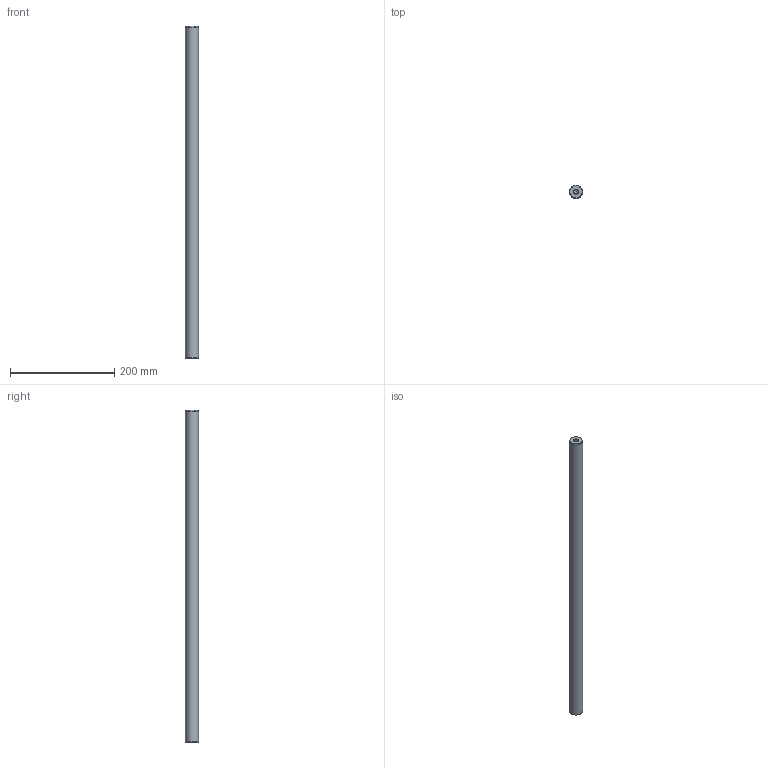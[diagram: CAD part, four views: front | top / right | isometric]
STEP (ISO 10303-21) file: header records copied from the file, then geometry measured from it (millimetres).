
FILE_DESCRIPTION( ( 'STEP AP214' ), '1' );
FILE_NAME( 'U:/Etudes/Top Solid/BIBLIO 3D AVM/STEP/PNEUMATIQUE/GUIDAGES/Accessoires/Colonnes/Ø25x636.step', '2005-05-04T12:53:52', ( ' ' ), ( ' ' ), 'XStep 1.0', ' ', ' ' );
FILE_SCHEMA( ( 'automotive_design' ) );
Length unit declared in the file: metre
Products named in the file (1): 1
Bounding box: 25 x 25 x 636 mm (x, y, z)
Volume: 309148.4 mm3; surface area: 52225.8 mm2
Topology: 1 solids, 1 shells, 13 faces, 27 edges, 16 vertices
Faces by surface type: cone 6, cylinder 5, plane 2
Full cylindrical faces by diameter (mm): 8.376 x4, 25 x1
Entity records: 382 total; most frequent: DIRECTION 52, CARTESIAN_POINT 40, AXIS2_PLACEMENT_3D 26, EDGE_LOOP 24, ORIENTED_EDGE 24, FACE_OUTER_BOUND 18, VERTEX_POINT 14, STYLED_ITEM 13
